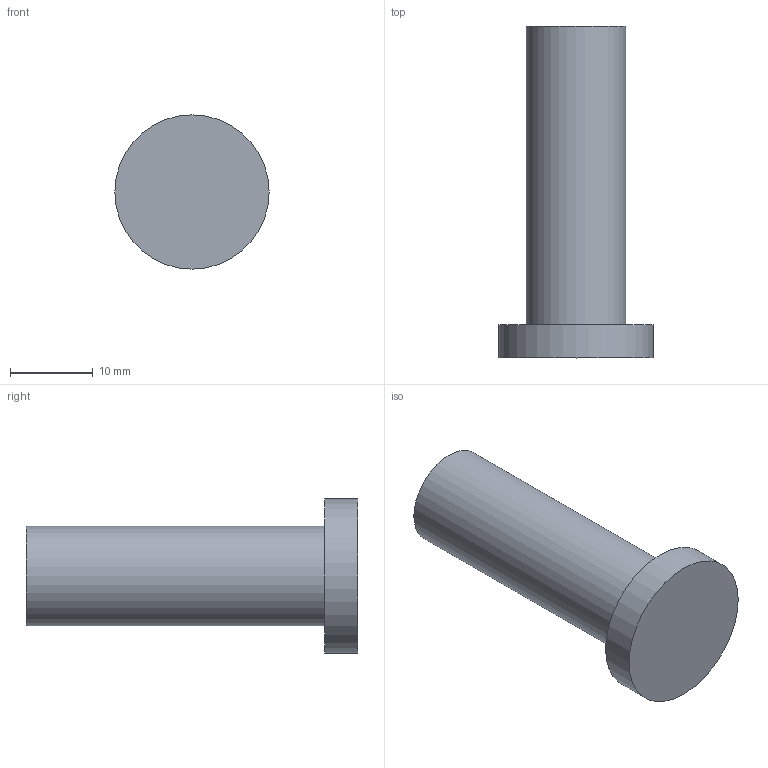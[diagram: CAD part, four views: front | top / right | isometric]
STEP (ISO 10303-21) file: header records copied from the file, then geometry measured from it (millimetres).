
FILE_DESCRIPTION(('Open CASCADE Model'),'2;1');
FILE_NAME('Open CASCADE Shape Model','2026-10-20T13:19:34',('Author'),( 'Open CASCADE'),'Open CASCADE STEP processor 7.9','Open CASCADE 7.9' ,'Unknown');
FILE_SCHEMA(('AUTOMOTIVE_DESIGN { 1 0 10303 214 1 1 1 1 }'));
Length unit declared in the file: millimetre
Products named in the file (1): Open CASCADE STEP translator 7.9 14
Bounding box: 18.6 x 40 x 18.6 mm (x, y, z)
Volume: 5158.4 mm3; surface area: 2134.3 mm2
Topology: 1 solids, 1 shells, 5 faces, 6 edges, 4 vertices
Faces by surface type: plane 3, cylinder 2
Full cylindrical faces by diameter (mm): 12 x1, 18.6 x1
Entity records: 192 total; most frequent: DIRECTION 34, CARTESIAN_POINT 28, ORIENTED_EDGE 12, PCURVE 12, DEFINITIONAL_REPRESENTATION 12, AXIS2_PLACEMENT_3D 10, LINE 10, VECTOR 10
